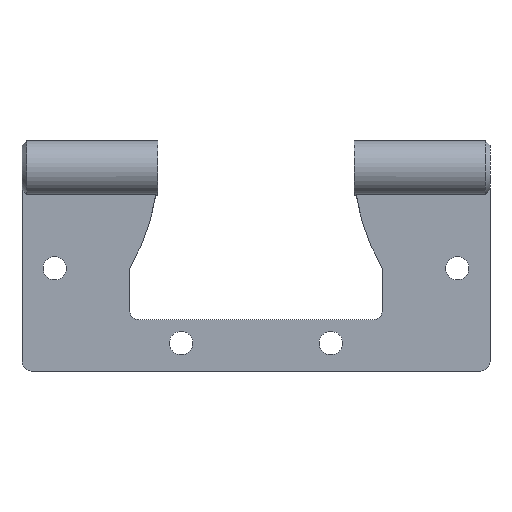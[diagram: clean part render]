
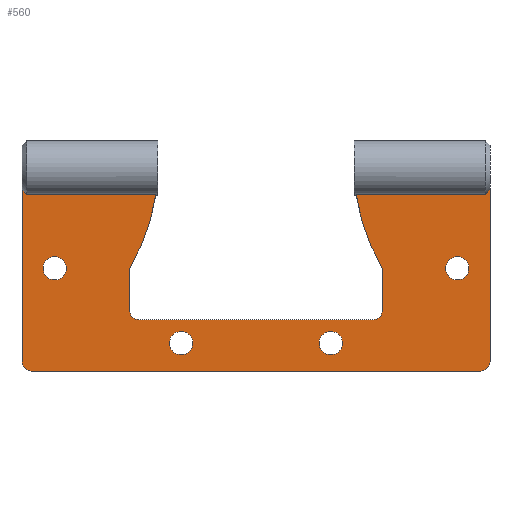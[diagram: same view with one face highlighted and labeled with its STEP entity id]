
A CAD part, front view. The second image highlights one B-rep face of the part: STEP entity #560.
In plain terms, the highlighted planar face has unit normal (0, -1, 0).
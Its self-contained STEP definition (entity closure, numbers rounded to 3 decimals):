
#21=PLANE('',#631);
#49=FACE_BOUND('',#205,.T.);
#50=FACE_BOUND('',#206,.T.);
#51=FACE_BOUND('',#207,.T.);
#52=FACE_BOUND('',#208,.T.);
#55=LINE('',#839,#81);
#58=LINE('',#877,#84);
#67=LINE('',#967,#93);
#69=LINE('',#970,#95);
#70=LINE('',#974,#96);
#71=LINE('',#978,#97);
#72=LINE('',#982,#98);
#73=LINE('',#985,#99);
#81=VECTOR('',#657,10.);
#84=VECTOR('',#672,10.);
#93=VECTOR('',#777,10.);
#95=VECTOR('',#781,10.);
#96=VECTOR('',#784,10.);
#97=VECTOR('',#787,10.);
#98=VECTOR('',#790,10.);
#99=VECTOR('',#793,10.);
#146=FACE_OUTER_BOUND('',#204,.T.);
#204=EDGE_LOOP('',(#465,#466,#467,#468,#469,#470,#471,#472,#473,#474,#475,
#476,#477,#478,#479,#480));
#205=EDGE_LOOP('',(#481));
#206=EDGE_LOOP('',(#482));
#207=EDGE_LOOP('',(#483));
#208=EDGE_LOOP('',(#484));
#236=CIRCLE('',#597,2.5);
#238=CIRCLE('',#601,2.5);
#240=CIRCLE('',#605,2.5);
#242=CIRCLE('',#609,2.5);
#251=CIRCLE('',#629,2.);
#252=CIRCLE('',#632,42.354);
#253=CIRCLE('',#633,2.);
#254=CIRCLE('',#634,2.);
#255=CIRCLE('',#635,42.354);
#256=CIRCLE('',#636,2.);
#257=(
BOUNDED_CURVE()
B_SPLINE_CURVE(2,(#827,#828,#829),.UNSPECIFIED.,.F.,.F.)
B_SPLINE_CURVE_WITH_KNOTS((3,3),(0.,0.144),.UNSPECIFIED.)
CURVE()
GEOMETRIC_REPRESENTATION_ITEM()
RATIONAL_B_SPLINE_CURVE((1.,1.005,1.))
REPRESENTATION_ITEM('')
);
#260=(
BOUNDED_CURVE()
B_SPLINE_CURVE(2,(#860,#861,#862),.UNSPECIFIED.,.F.,.F.)
B_SPLINE_CURVE_WITH_KNOTS((3,3),(0.,0.144),.UNSPECIFIED.)
CURVE()
GEOMETRIC_REPRESENTATION_ITEM()
RATIONAL_B_SPLINE_CURVE((1.,1.005,1.))
REPRESENTATION_ITEM('')
);
#261=VERTEX_POINT('',#825);
#262=VERTEX_POINT('',#826);
#265=VERTEX_POINT('',#838);
#270=VERTEX_POINT('',#857);
#271=VERTEX_POINT('',#859);
#274=VERTEX_POINT('',#869);
#290=VERTEX_POINT('',#913);
#292=VERTEX_POINT('',#919);
#294=VERTEX_POINT('',#925);
#296=VERTEX_POINT('',#931);
#305=VERTEX_POINT('',#960);
#306=VERTEX_POINT('',#961);
#307=VERTEX_POINT('',#966);
#308=VERTEX_POINT('',#971);
#309=VERTEX_POINT('',#973);
#310=VERTEX_POINT('',#975);
#311=VERTEX_POINT('',#977);
#312=VERTEX_POINT('',#979);
#313=VERTEX_POINT('',#981);
#314=VERTEX_POINT('',#984);
#315=EDGE_CURVE('',#261,#262,#257,.F.);
#319=EDGE_CURVE('',#262,#265,#55,.T.);
#325=EDGE_CURVE('',#270,#271,#260,.F.);
#330=EDGE_CURVE('',#274,#270,#58,.T.);
#348=EDGE_CURVE('',#290,#290,#236,.T.);
#350=EDGE_CURVE('',#292,#292,#238,.T.);
#352=EDGE_CURVE('',#294,#294,#240,.T.);
#354=EDGE_CURVE('',#296,#296,#242,.T.);
#363=EDGE_CURVE('',#305,#306,#251,.T.);
#366=EDGE_CURVE('',#307,#306,#67,.T.);
#368=EDGE_CURVE('',#305,#271,#69,.T.);
#369=EDGE_CURVE('',#274,#308,#252,.T.);
#370=EDGE_CURVE('',#308,#309,#70,.T.);
#371=EDGE_CURVE('',#310,#309,#253,.T.);
#372=EDGE_CURVE('',#310,#311,#71,.T.);
#373=EDGE_CURVE('',#312,#311,#254,.T.);
#374=EDGE_CURVE('',#312,#313,#72,.T.);
#375=EDGE_CURVE('',#313,#265,#255,.T.);
#376=EDGE_CURVE('',#261,#314,#73,.T.);
#377=EDGE_CURVE('',#307,#314,#256,.T.);
#465=ORIENTED_EDGE('',*,*,#363,.F.);
#466=ORIENTED_EDGE('',*,*,#368,.T.);
#467=ORIENTED_EDGE('',*,*,#325,.F.);
#468=ORIENTED_EDGE('',*,*,#330,.F.);
#469=ORIENTED_EDGE('',*,*,#369,.T.);
#470=ORIENTED_EDGE('',*,*,#370,.T.);
#471=ORIENTED_EDGE('',*,*,#371,.F.);
#472=ORIENTED_EDGE('',*,*,#372,.T.);
#473=ORIENTED_EDGE('',*,*,#373,.F.);
#474=ORIENTED_EDGE('',*,*,#374,.T.);
#475=ORIENTED_EDGE('',*,*,#375,.T.);
#476=ORIENTED_EDGE('',*,*,#319,.F.);
#477=ORIENTED_EDGE('',*,*,#315,.F.);
#478=ORIENTED_EDGE('',*,*,#376,.T.);
#479=ORIENTED_EDGE('',*,*,#377,.F.);
#480=ORIENTED_EDGE('',*,*,#366,.T.);
#481=ORIENTED_EDGE('',*,*,#348,.T.);
#482=ORIENTED_EDGE('',*,*,#352,.T.);
#483=ORIENTED_EDGE('',*,*,#354,.T.);
#484=ORIENTED_EDGE('',*,*,#350,.T.);
#560=ADVANCED_FACE('',(#146,#49,#50,#51,#52),#21,.T.);
#597=AXIS2_PLACEMENT_3D('',#914,#707,#708);
#601=AXIS2_PLACEMENT_3D('',#920,#715,#716);
#605=AXIS2_PLACEMENT_3D('',#926,#723,#724);
#609=AXIS2_PLACEMENT_3D('',#932,#731,#732);
#629=AXIS2_PLACEMENT_3D('',#962,#771,#772);
#631=AXIS2_PLACEMENT_3D('',#969,#779,#780);
#632=AXIS2_PLACEMENT_3D('',#972,#782,#783);
#633=AXIS2_PLACEMENT_3D('',#976,#785,#786);
#634=AXIS2_PLACEMENT_3D('',#980,#788,#789);
#635=AXIS2_PLACEMENT_3D('',#983,#791,#792);
#636=AXIS2_PLACEMENT_3D('',#986,#794,#795);
#657=DIRECTION('',(1.,0.,0.));
#672=DIRECTION('',(1.,0.,0.));
#707=DIRECTION('center_axis',(0.,1.,0.));
#708=DIRECTION('ref_axis',(-1.,0.,0.));
#715=DIRECTION('center_axis',(0.,1.,0.));
#716=DIRECTION('ref_axis',(-1.,0.,0.));
#723=DIRECTION('center_axis',(0.,1.,0.));
#724=DIRECTION('ref_axis',(-1.,0.,0.));
#731=DIRECTION('center_axis',(0.,1.,0.));
#732=DIRECTION('ref_axis',(-1.,0.,0.));
#771=DIRECTION('center_axis',(0.,1.,0.));
#772=DIRECTION('ref_axis',(0.707,0.,-0.707));
#777=DIRECTION('',(1.,0.,0.));
#779=DIRECTION('center_axis',(0.,-1.,0.));
#780=DIRECTION('ref_axis',(0.,0.,-1.));
#781=DIRECTION('',(0.,0.,1.));
#782=DIRECTION('center_axis',(0.,-1.,0.));
#783=DIRECTION('ref_axis',(0.858,0.,0.513));
#784=DIRECTION('',(0.,0.,-1.));
#785=DIRECTION('center_axis',(0.,-1.,0.));
#786=DIRECTION('ref_axis',(0.707,0.,-0.707));
#787=DIRECTION('',(-1.,0.,0.));
#788=DIRECTION('center_axis',(0.,-1.,0.));
#789=DIRECTION('ref_axis',(-0.707,0.,-0.707));
#790=DIRECTION('',(0.,0.,1.));
#791=DIRECTION('center_axis',(0.,-1.,0.));
#792=DIRECTION('ref_axis',(-1.,0.,0.007));
#793=DIRECTION('',(0.,0.,-1.));
#794=DIRECTION('center_axis',(0.,1.,0.));
#795=DIRECTION('ref_axis',(-0.707,0.,-0.707));
#825=CARTESIAN_POINT('',(-50.,-1.25,-4.634));
#826=CARTESIAN_POINT('',(-49.,-1.25,-5.664));
#827=CARTESIAN_POINT('Ctrl Pts',(-49.,-1.25,-5.664));
#828=CARTESIAN_POINT('Ctrl Pts',(-49.55,-1.25,-5.1));
#829=CARTESIAN_POINT('Ctrl Pts',(-50.,-1.25,-4.634));
#838=CARTESIAN_POINT('',(-21.423,-1.25,-5.664));
#839=CARTESIAN_POINT('',(0.,-1.25,-5.664));
#857=CARTESIAN_POINT('',(49.,-1.25,-5.664));
#859=CARTESIAN_POINT('',(50.,-1.25,-4.634));
#860=CARTESIAN_POINT('Ctrl Pts',(50.,-1.25,-4.634));
#861=CARTESIAN_POINT('Ctrl Pts',(49.55,-1.25,-5.1));
#862=CARTESIAN_POINT('Ctrl Pts',(49.,-1.25,-5.664));
#869=CARTESIAN_POINT('',(21.423,-1.25,-5.664));
#877=CARTESIAN_POINT('',(0.,-1.25,-5.664));
#913=CARTESIAN_POINT('',(45.5,-1.25,-21.4));
#914=CARTESIAN_POINT('Origin',(43.,-1.25,-21.4));
#919=CARTESIAN_POINT('',(18.5,-1.25,-37.4));
#920=CARTESIAN_POINT('Origin',(16.,-1.25,-37.4));
#925=CARTESIAN_POINT('',(-13.5,-1.25,-37.4));
#926=CARTESIAN_POINT('Origin',(-16.,-1.25,-37.4));
#931=CARTESIAN_POINT('',(-40.5,-1.25,-21.4));
#932=CARTESIAN_POINT('Origin',(-43.,-1.25,-21.4));
#960=CARTESIAN_POINT('',(50.,-1.25,-41.4));
#961=CARTESIAN_POINT('',(48.,-1.25,-43.4));
#962=CARTESIAN_POINT('Origin',(48.,-1.25,-41.4));
#966=CARTESIAN_POINT('',(-48.,-1.25,-43.4));
#967=CARTESIAN_POINT('',(-50.,-1.25,-43.4));
#969=CARTESIAN_POINT('Origin',(0.,-1.25,-25.205));
#970=CARTESIAN_POINT('',(50.,-1.25,-43.4));
#971=CARTESIAN_POINT('',(27.,-1.25,-21.416));
#972=CARTESIAN_POINT('Origin',(63.353,-1.25,0.317));
#973=CARTESIAN_POINT('',(27.,-1.25,-30.416));
#974=CARTESIAN_POINT('',(27.,-1.25,-21.416));
#975=CARTESIAN_POINT('',(25.,-1.25,-32.416));
#976=CARTESIAN_POINT('Origin',(25.,-1.25,-30.416));
#977=CARTESIAN_POINT('',(-25.,-1.25,-32.416));
#978=CARTESIAN_POINT('',(27.,-1.25,-32.416));
#979=CARTESIAN_POINT('',(-27.,-1.25,-30.416));
#980=CARTESIAN_POINT('Origin',(-25.,-1.25,-30.416));
#981=CARTESIAN_POINT('',(-27.,-1.25,-21.416));
#982=CARTESIAN_POINT('',(-27.,-1.25,-32.416));
#983=CARTESIAN_POINT('Origin',(-63.353,-1.25,0.317));
#984=CARTESIAN_POINT('',(-50.,-1.25,-41.4));
#985=CARTESIAN_POINT('',(-50.,-1.25,0.));
#986=CARTESIAN_POINT('Origin',(-48.,-1.25,-41.4));
